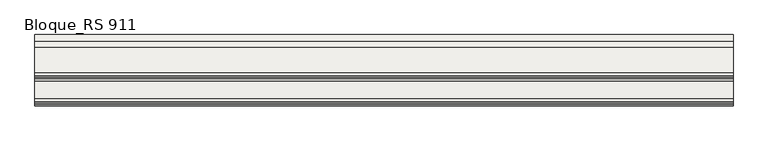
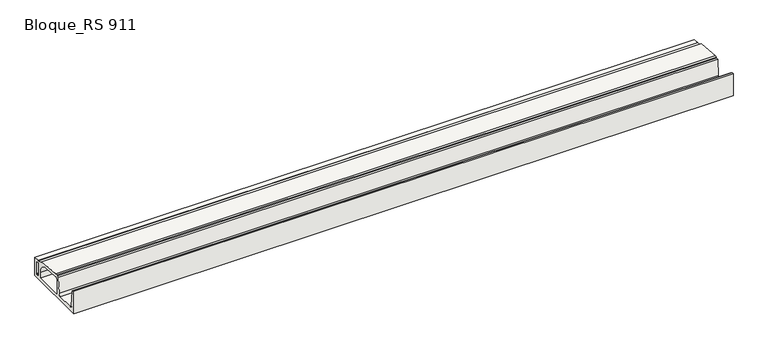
"""IFC4 building model written with IfcOpenShell, lengths in millimetres: slab geometry, ROSA GRES_RS 911 : Bloque_RS 911."""

from ifc_helpers import new_model, si_unit, point, frame, frame_2d, origin, place, context, project, spatial, polyline, circle_curve, trimmed, segment, composite_curve, outline, extrude, source, transform, mapped, element, save


def bloque_rs_911_57cfa048(model_context):
    return source(origin(), model_context, "Body", "SweptSolid", [
        extrude(outline(composite_curve([segment(polyline([(-12.836227, 1.7539108), (-626.836227, 1.7539108), (-626.836227, 216.3460936), (-616.836227, 216.3460936), (-616.836227, 206.3460936), (-598.836227, 206.3460936), (-587.1239808, 55.2086635)]), True, "CONTINUOUS"), segment(trimmed(circle_curve(frame_2d((-567.1837649, 56.7539108)), 20.0), [point((-587.1239808, 55.2086635))], [point((-567.1837649, 36.7539108))], True, "CARTESIAN"), True, "CONTINUOUS"), segment(polyline([(-567.1837649, 36.7539108), (-413.4886891, 36.7539108)]), True, "CONTINUOUS"), segment(trimmed(circle_curve(frame_2d((-413.4886891, 56.7539108)), 20.0), [point((-413.4886891, 36.7539108))], [point((-393.5484732, 55.2086635))], True, "CARTESIAN"), True, "CONTINUOUS"), segment(polyline([(-393.5484732, 55.2086635), (-381.836227, 206.3460936), (-363.836227, 206.3460936), (-363.836227, 216.3460936), (-343.836227, 216.3460936), (-343.836227, 214.7181867), (-123.836227, 196.8112099), (-125.1172881, 181.0724591), (-72.836227, 176.8170239), (-72.836227, 173.8170239), (-67.836227, 173.8170239), (-67.836227, 176.4100471), (-12.836227, 171.9333029), (-12.836227, 1.7539108)]), True, "CONTINUOUS")], self_intersect=False), holes=[composite_curve([segment(polyline([(-67.836227, 140.6431347), (-67.836227, 36.7539108)]), True, "CONTINUOUS"), segment(trimmed(circle_curve(frame_2d((-59.836227, 36.7539108)), 8.0), [point((-67.836227, 36.7539108))], [point((-59.836227, 28.7539108))], True, "CARTESIAN"), True, "CONTINUOUS"), segment(polyline([(-59.836227, 28.7539108), (-47.836227, 28.7539108)]), True, "CONTINUOUS"), segment(trimmed(circle_curve(frame_2d((-47.836227, 36.7539108)), 8.0), [point((-47.836227, 28.7539108))], [point((-39.836227, 36.7539108))], True, "CARTESIAN"), True, "CONTINUOUS"), segment(polyline([(-39.836227, 36.7539108), (-39.836227, 139.6663905)]), True, "CONTINUOUS"), segment(trimmed(circle_curve(frame_2d((-47.836227, 139.6663905)), 8.0), [point((-39.836227, 139.6663905))], [point((-47.1872106, 147.6400206))], True, "CARTESIAN"), True, "CONTINUOUS"), segment(polyline([(-47.1872106, 147.6400206), (-59.1872106, 148.6167648)]), True, "CONTINUOUS"), segment(trimmed(circle_curve(frame_2d((-59.836227, 140.6431347)), 8.0), [point((-59.1872106, 148.6167648))], [point((-67.836227, 140.6431347))], True, "CARTESIAN"), True, "CONTINUOUS")], self_intersect=False), composite_curve([segment(polyline([(-180.4105134, 169.2541533), (-334.6837717, 181.811279)]), True, "CONTINUOUS"), segment(trimmed(circle_curve(frame_2d((-336.3063127, 161.8772036)), 20.0), [point((-334.6837717, 181.811279))], [point((-356.3063127, 161.8772036))], True, "CARTESIAN"), True, "CONTINUOUS"), segment(polyline([(-356.3063127, 161.8772036), (-356.3063127, 28.7539108), (-102.3063127, 28.7539108), (-102.3063127, 84.534333)]), True, "CONTINUOUS"), segment(trimmed(circle_curve(frame_2d((-187.3063127, 84.534333)), 85.0), [point((-102.3063127, 84.534333))], [point((-180.4105134, 169.2541533))], True, "CARTESIAN"), True, "CONTINUOUS")], self_intersect=False)]), frame((0.0, 0.0, 0.0), z_axis=(1.0, 0.0, 0.0), x_axis=(0.0, 1.0, 0.0)), (0.0, 0.0, 1.0), 5995.75),
    ])


if __name__ == "__main__":
    model = new_model("IFC4")
    model_context = context("Model", 3, world=origin())
    ifc_project = project(units=[si_unit("LENGTHUNIT", "METRE", prefix="MILLI")], contexts=[model_context])
    site = spatial("IfcSite", under=ifc_project)
    building = spatial("IfcBuilding", under=site)
    placement = place(None, origin())
    bloque_rs_911_shape = bloque_rs_911_57cfa048(model_context)
    element("IfcSlab", 1, ObjectType="ROSA GRES_RS 911 : Bloque_RS 911", at=placement, inside=building, context=model_context, shape_type="MappedRepresentation", body=[
        mapped(bloque_rs_911_shape, transform((0.0, 0.0, 0.0), x_axis=(1.0, 0.0, 0.0), y_axis=(0.0, 1.0, 0.0), z_axis=(0.0, 0.0, 1.0))),
    ])
    save(model, "model.ifc")
